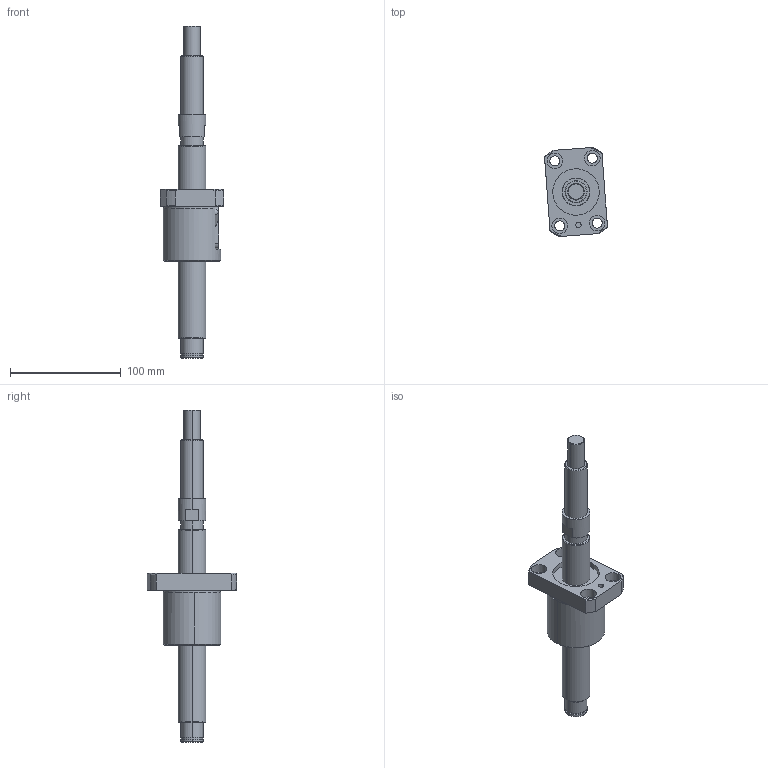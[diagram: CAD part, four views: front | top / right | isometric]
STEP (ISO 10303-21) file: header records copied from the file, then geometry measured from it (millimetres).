
FILE_DESCRIPTION (( 'STEP AP203' ), '1' );
FILE_NAME ('TS2510_assy_20160716.STEP', '2016-07-16T04:54:45', ( 'user' ), ( 'Hewlett-Packard Company' ), 'SwSTEP 2.0', 'SolidWorks 2014', '' );
FILE_SCHEMA (( 'CONFIG_CONTROL_DESIGN' ));
Length unit declared in the file: millimetre
Products named in the file (3): TS2510_screw; TS2510_assy_20160716; TS2510_nut
Assembly tree (2 placements, depth 2):
  TS2510_assy_20160716
    TS2510_nut
    TS2510_screw
Bounding box: 56.94 x 80.47 x 300 mm (x, y, z)
Volume: 238492.7 mm3; surface area: 49678.7 mm2
Topology: 2 solids, 2 shells, 111 faces, 263 edges, 170 vertices
Faces by surface type: cylinder 54, plane 33, cone 20, sphere 4
Entity records: 3558 total; most frequent: DIRECTION 607, CARTESIAN_POINT 603, ORIENTED_EDGE 518, EDGE_CURVE 259, AXIS2_PLACEMENT_3D 252, VERTEX_POINT 168, EDGE_LOOP 137, CIRCLE 136
